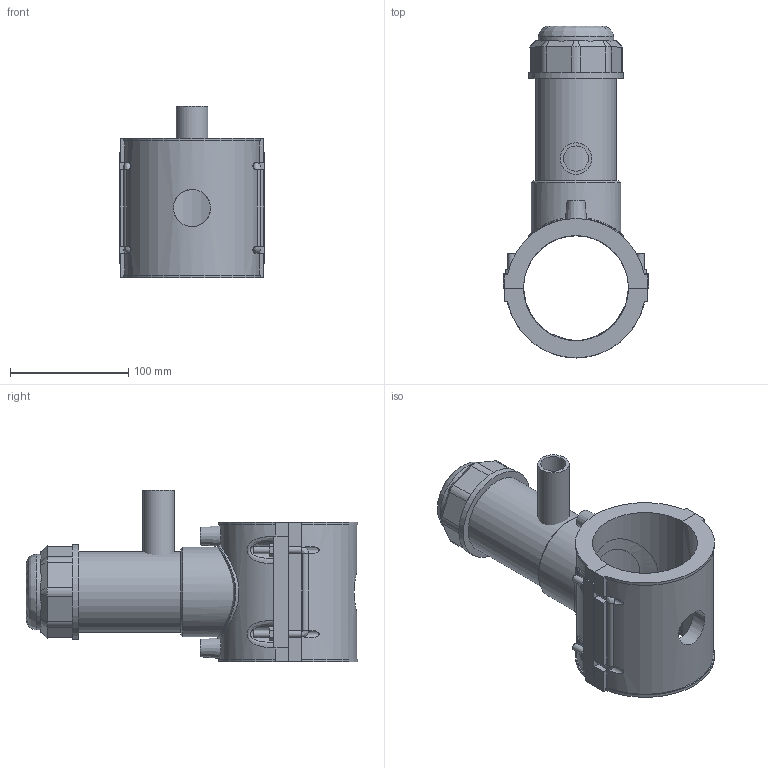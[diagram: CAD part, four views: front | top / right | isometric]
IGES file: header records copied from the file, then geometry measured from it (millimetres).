
Global section: file name: 5963BBP3030007.ipt; native system: Autodesk Inventor 2019; preprocessor: unknown; author: KIM; date: 20210830.101516; units: inch
Bounding box: 122.9 x 280.2 x 145.16 mm (x, y, z)
Volume: 935731.7 mm3; surface area: 191994.5 mm2
Topology: 3 solids, 3 shells, 204 faces, 526 edges, 343 vertices
Faces by surface type: plane 125, cylinder 37, revolution 21, cone 15, bspline 6
Full cylindrical faces by diameter (mm): 4 x2, 6 x8, 26.6 x1, 63.864 x1, 67.856 x1, 75.839 x1, 79.83 x1
